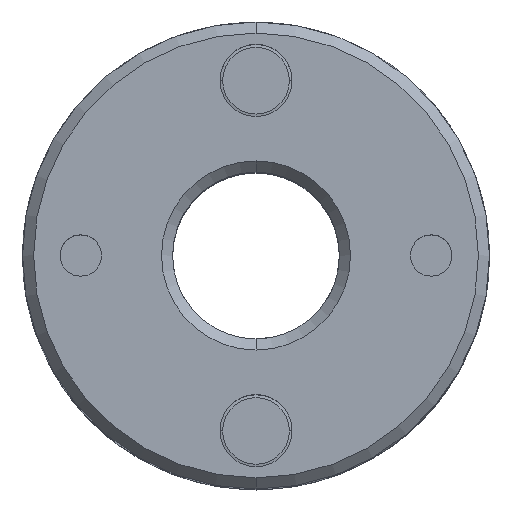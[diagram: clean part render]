
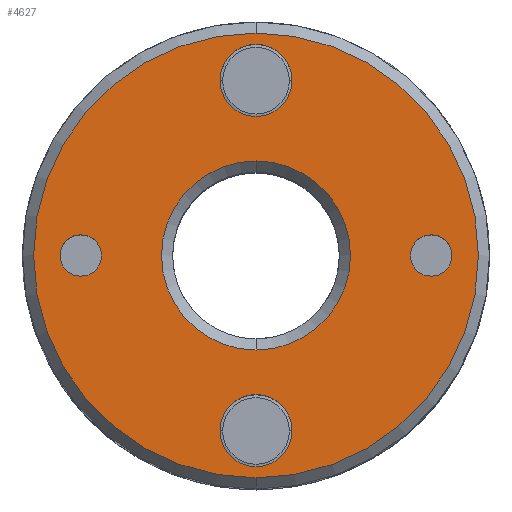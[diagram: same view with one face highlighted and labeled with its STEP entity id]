
A CAD part, top view. The second image highlights one B-rep face of the part: STEP entity #4627.
In plain terms, the highlighted planar face has unit normal (0, 0, 1).
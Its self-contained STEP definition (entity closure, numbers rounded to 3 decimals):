
#1499=CARTESIAN_POINT('',(0.,3.8,5.25));
#1500=VERTEX_POINT('',#1499);
#1516=CARTESIAN_POINT('',(0.,2.5,5.25));
#1517=VERTEX_POINT('',#1516);
#1524=CARTESIAN_POINT('',(0.,3.15,5.25));
#1525=DIRECTION('',(0.0,0.0,-1.0));
#1526=DIRECTION('',(0.0,1.0,0.0));
#1527=AXIS2_PLACEMENT_3D('',#1524,#1525,#1526);
#1528=CIRCLE('',#1527,0.65);
#1529=EDGE_CURVE('',#1500,#1517,#1528,.T.);
#1541=CARTESIAN_POINT('',(0.,-2.5,5.25));
#1542=VERTEX_POINT('',#1541);
#1558=CARTESIAN_POINT('',(0.,-3.8,5.25));
#1559=VERTEX_POINT('',#1558);
#1566=CARTESIAN_POINT('',(0.,-3.15,5.25));
#1567=DIRECTION('',(0.0,0.0,-1.0));
#1568=DIRECTION('',(0.0,1.0,0.0));
#1569=AXIS2_PLACEMENT_3D('',#1566,#1567,#1568);
#1570=CIRCLE('',#1569,0.65);
#1571=EDGE_CURVE('',#1542,#1559,#1570,.T.);
#1583=CARTESIAN_POINT('',(-3.15,0.375,5.25));
#1584=VERTEX_POINT('',#1583);
#1600=CARTESIAN_POINT('',(-3.15,-0.375,5.25));
#1601=VERTEX_POINT('',#1600);
#1608=CARTESIAN_POINT('',(-3.15,0.,5.25));
#1609=DIRECTION('',(0.0,0.0,-1.0));
#1610=DIRECTION('',(0.0,1.0,0.0));
#1611=AXIS2_PLACEMENT_3D('',#1608,#1609,#1610);
#1612=CIRCLE('',#1611,0.375);
#1613=EDGE_CURVE('',#1584,#1601,#1612,.T.);
#1625=CARTESIAN_POINT('',(3.15,0.375,5.25));
#1626=VERTEX_POINT('',#1625);
#1642=CARTESIAN_POINT('',(3.15,-0.375,5.25));
#1643=VERTEX_POINT('',#1642);
#1650=CARTESIAN_POINT('',(3.15,0.,5.25));
#1651=DIRECTION('',(0.0,0.0,-1.0));
#1652=DIRECTION('',(0.0,1.0,0.0));
#1653=AXIS2_PLACEMENT_3D('',#1650,#1651,#1652);
#1654=CIRCLE('',#1653,0.375);
#1655=EDGE_CURVE('',#1626,#1643,#1654,.T.);
#1851=CARTESIAN_POINT('',(0.,-1.7,5.25));
#1852=VERTEX_POINT('',#1851);
#1866=CARTESIAN_POINT('',(0.,1.7,5.25));
#1867=VERTEX_POINT('',#1866);
#1874=CARTESIAN_POINT('',(0.,0.,5.25));
#1875=DIRECTION('',(0.0,0.0,1.0));
#1876=DIRECTION('',(0.0,-1.0,0.0));
#1877=AXIS2_PLACEMENT_3D('',#1874,#1875,#1876);
#1878=CIRCLE('',#1877,1.7);
#1879=EDGE_CURVE('',#1867,#1852,#1878,.T.);
#2075=CARTESIAN_POINT('',(0.,-4.0,5.25));
#2076=VERTEX_POINT('',#2075);
#2083=CARTESIAN_POINT('',(0.,4.0,5.25));
#2084=VERTEX_POINT('',#2083);
#2085=CARTESIAN_POINT('',(0.,0.,5.25));
#2086=DIRECTION('',(0.0,0.0,-1.0));
#2087=DIRECTION('',(0.0,-1.0,0.0));
#2088=AXIS2_PLACEMENT_3D('',#2085,#2086,#2087);
#2089=CIRCLE('',#2088,4.0);
#2090=EDGE_CURVE('',#2076,#2084,#2089,.T.);
#4558=CARTESIAN_POINT('',(0.,0.,5.25));
#4559=DIRECTION('',(0.0,0.0,-1.0));
#4560=DIRECTION('',(0.0,-1.0,0.0));
#4561=AXIS2_PLACEMENT_3D('',#4558,#4559,#4560);
#4562=CIRCLE('',#4561,4.0);
#4563=EDGE_CURVE('',#2084,#2076,#4562,.T.);
#4568=CARTESIAN_POINT('',(0.,0.382,5.25));
#4569=DIRECTION('',(0.0,0.0,-1.0));
#4570=DIRECTION('',(0.0,1.0,0.0));
#4571=AXIS2_PLACEMENT_3D('',#4568,#4569,#4570);
#4572=PLANE('',#4571);
#4573=ORIENTED_EDGE('',*,*,#4563,.F.);
#4574=ORIENTED_EDGE('',*,*,#2090,.F.);
#4575=EDGE_LOOP('',(#4573,#4574));
#4576=FACE_OUTER_BOUND('',#4575,.T.);
#4577=ORIENTED_EDGE('',*,*,#1879,.F.);
#4578=CARTESIAN_POINT('',(0.,0.,5.25));
#4579=DIRECTION('',(0.0,0.0,1.0));
#4580=DIRECTION('',(0.0,-1.0,0.0));
#4581=AXIS2_PLACEMENT_3D('',#4578,#4579,#4580);
#4582=CIRCLE('',#4581,1.7);
#4583=EDGE_CURVE('',#1852,#1867,#4582,.T.);
#4584=ORIENTED_EDGE('',*,*,#4583,.F.);
#4585=EDGE_LOOP('',(#4577,#4584));
#4586=FACE_BOUND('',#4585,.T.);
#4587=ORIENTED_EDGE('',*,*,#1655,.T.);
#4588=CARTESIAN_POINT('',(3.15,0.,5.25));
#4589=DIRECTION('',(0.0,0.0,-1.0));
#4590=DIRECTION('',(0.0,1.0,0.0));
#4591=AXIS2_PLACEMENT_3D('',#4588,#4589,#4590);
#4592=CIRCLE('',#4591,0.375);
#4593=EDGE_CURVE('',#1643,#1626,#4592,.T.);
#4594=ORIENTED_EDGE('',*,*,#4593,.T.);
#4595=EDGE_LOOP('',(#4587,#4594));
#4596=FACE_BOUND('',#4595,.T.);
#4597=ORIENTED_EDGE('',*,*,#1613,.T.);
#4598=CARTESIAN_POINT('',(-3.15,0.,5.25));
#4599=DIRECTION('',(0.0,0.0,-1.0));
#4600=DIRECTION('',(0.0,1.0,0.0));
#4601=AXIS2_PLACEMENT_3D('',#4598,#4599,#4600);
#4602=CIRCLE('',#4601,0.375);
#4603=EDGE_CURVE('',#1601,#1584,#4602,.T.);
#4604=ORIENTED_EDGE('',*,*,#4603,.T.);
#4605=EDGE_LOOP('',(#4597,#4604));
#4606=FACE_BOUND('',#4605,.T.);
#4607=ORIENTED_EDGE('',*,*,#1571,.T.);
#4608=CARTESIAN_POINT('',(0.,-3.15,5.25));
#4609=DIRECTION('',(0.0,0.0,-1.0));
#4610=DIRECTION('',(0.0,1.0,0.0));
#4611=AXIS2_PLACEMENT_3D('',#4608,#4609,#4610);
#4612=CIRCLE('',#4611,0.65);
#4613=EDGE_CURVE('',#1559,#1542,#4612,.T.);
#4614=ORIENTED_EDGE('',*,*,#4613,.T.);
#4615=EDGE_LOOP('',(#4607,#4614));
#4616=FACE_BOUND('',#4615,.T.);
#4617=ORIENTED_EDGE('',*,*,#1529,.T.);
#4618=CARTESIAN_POINT('',(0.,3.15,5.25));
#4619=DIRECTION('',(0.0,0.0,-1.0));
#4620=DIRECTION('',(0.0,1.0,0.0));
#4621=AXIS2_PLACEMENT_3D('',#4618,#4619,#4620);
#4622=CIRCLE('',#4621,0.65);
#4623=EDGE_CURVE('',#1517,#1500,#4622,.T.);
#4624=ORIENTED_EDGE('',*,*,#4623,.T.);
#4625=EDGE_LOOP('',(#4617,#4624));
#4626=FACE_BOUND('',#4625,.T.);
#4627=ADVANCED_FACE('',(#4576,#4586,#4596,#4606,#4616,#4626),#4572,.F.);
